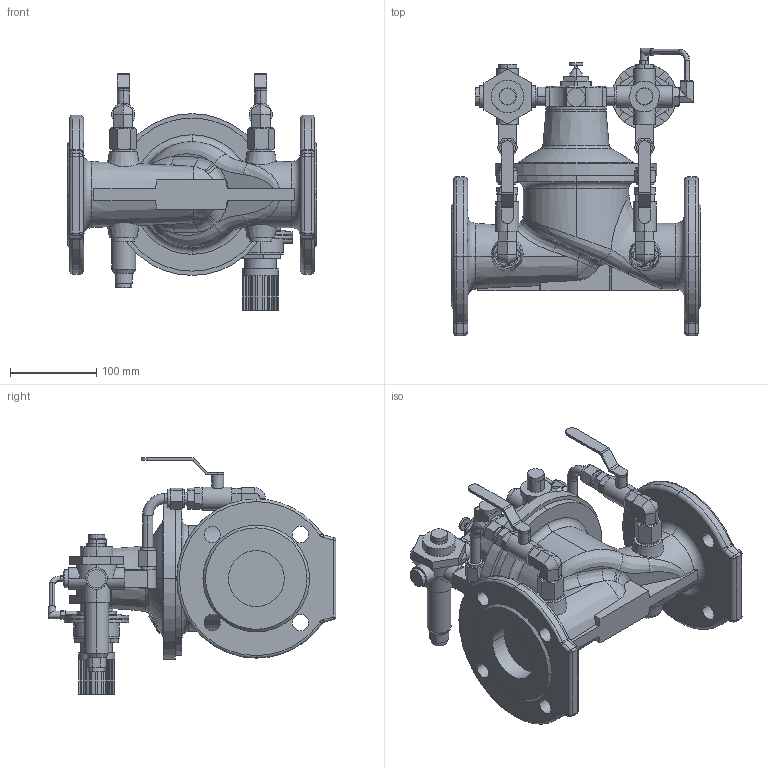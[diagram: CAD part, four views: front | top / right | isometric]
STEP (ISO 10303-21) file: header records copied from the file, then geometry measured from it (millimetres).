
FILE_DESCRIPTION (( 'STEP AP203' ), '1' );
FILE_NAME ('O_859_00_DN065_1XXXX00_REV01.step', '2020-11-17T11:51:08', ( '' ), ( '' ), 'SwSTEP 2.0', 'SolidWorks 2019', '' );
FILE_SCHEMA (( 'CONFIG_CONTROL_DESIGN' ));
Length unit declared in the file: millimetre
Products named in the file (1): O_859_00_DN065_1XXXX00_REV01
Bounding box: 290 x 334.53 x 274.79 mm (x, y, z)
Volume: 4398197.3 mm3; surface area: 411875.6 mm2
Topology: 1 solids, 1 shells, 951 faces, 2356 edges, 1475 vertices
Faces by surface type: plane 526, cylinder 275, cone 68, torus 52, bspline 26, sphere 4
Entity records: 31887 total; most frequent: CARTESIAN_POINT 9499, ORIENTED_EDGE 4696, DIRECTION 4602, EDGE_CURVE 2348, AXIS2_PLACEMENT_3D 1680, VERTEX_POINT 1475, LINE 1242, VECTOR 1242
